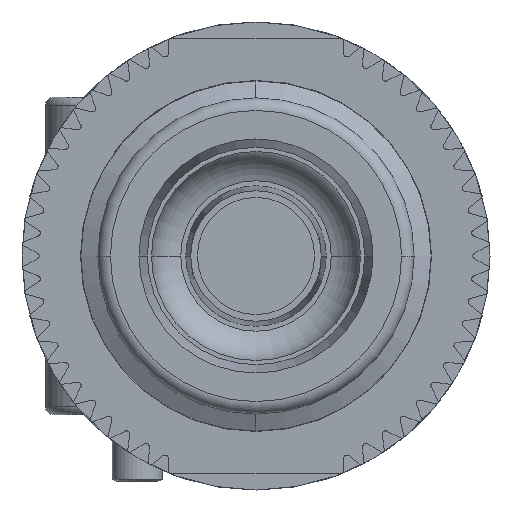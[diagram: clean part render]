
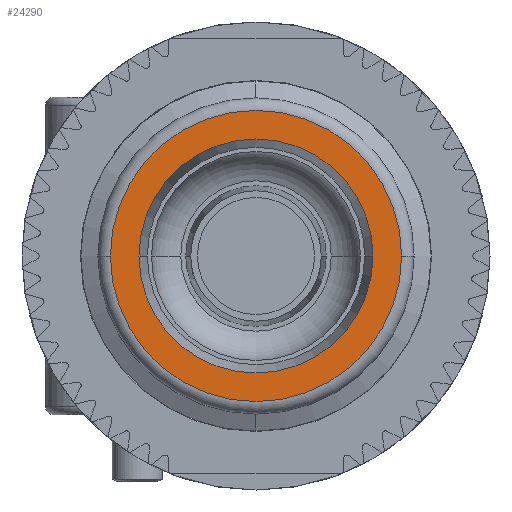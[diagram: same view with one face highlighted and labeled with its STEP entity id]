
A CAD part, left-side view. The second image highlights one B-rep face of the part: STEP entity #24290.
In plain terms, the highlighted planar face has unit normal (-1, 0, 0).
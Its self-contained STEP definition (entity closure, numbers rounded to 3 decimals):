
#19350=CARTESIAN_POINT('',(-12.,7.,0.));
#19360=VERTEX_POINT('',#19350);
#19390=CARTESIAN_POINT('',(-12.,0.,0.));
#19400=DIRECTION('',(1.,0.,0.));
#19410=DIRECTION('',(0.,1.,0.));
#19420=AXIS2_PLACEMENT_3D('',#19390,#19400,#19410);
#19430=CIRCLE('',#19420,7.);
#19440=CARTESIAN_POINT('',(-12.,-7.,0.));
#19450=VERTEX_POINT('',#19440);
#19460=EDGE_CURVE('',#19360,#19450,#19430,.T.);
#20180=CARTESIAN_POINT('',(-12.,8.711,0.));
#20190=VERTEX_POINT('',#20180);
#20380=CARTESIAN_POINT('',(-12.,-8.711,0.));
#20390=VERTEX_POINT('',#20380);
#20420=CARTESIAN_POINT('',(-12.,0.,0.));
#20430=DIRECTION('',(-1.,0.,0.));
#20440=DIRECTION('',(0.,1.,0.));
#20450=AXIS2_PLACEMENT_3D('',#20420,#20430,#20440);
#20460=CIRCLE('',#20450,8.711);
#20470=EDGE_CURVE('',#20390,#20190,#20460,.T.);
#24140=CARTESIAN_POINT('',(-12.,7.625,0.));
#24150=DIRECTION('',(-1.,0.,0.));
#24160=DIRECTION('',(0.,1.,0.));
#24170=AXIS2_PLACEMENT_3D('',#24140,#24150,#24160);
#24180=PLANE('',#24170);
#24190=ORIENTED_EDGE('',*,*,#19460,.T.);
#24200=EDGE_CURVE('',#19450,#19360,#19430,.T.);
#24210=ORIENTED_EDGE('',*,*,#24200,.T.);
#24220=EDGE_LOOP('',(#24210,#24190));
#24230=FACE_BOUND('',#24220,.T.);
#24240=EDGE_CURVE('',#20190,#20390,#20460,.T.);
#24250=ORIENTED_EDGE('',*,*,#24240,.T.);
#24260=ORIENTED_EDGE('',*,*,#20470,.T.);
#24270=EDGE_LOOP('',(#24260,#24250));
#24280=FACE_OUTER_BOUND('',#24270,.T.);
#24290=ADVANCED_FACE('',(#24230,#24280),#24180,.T.);
